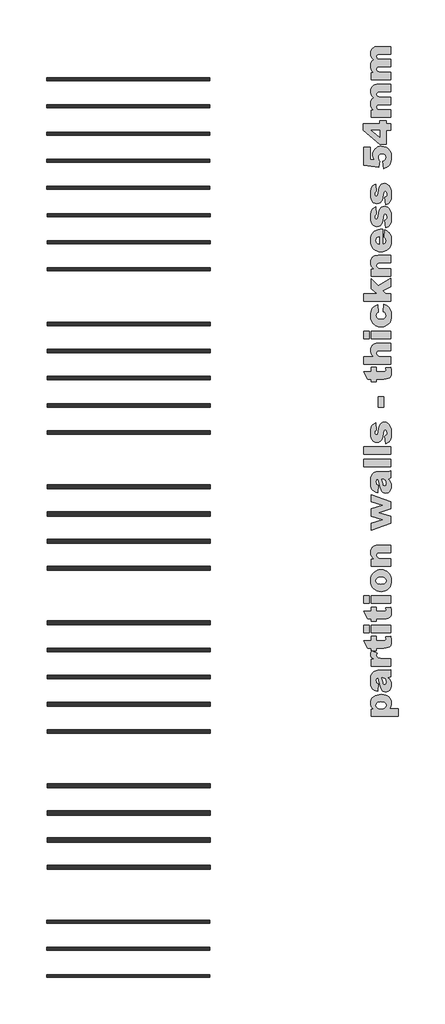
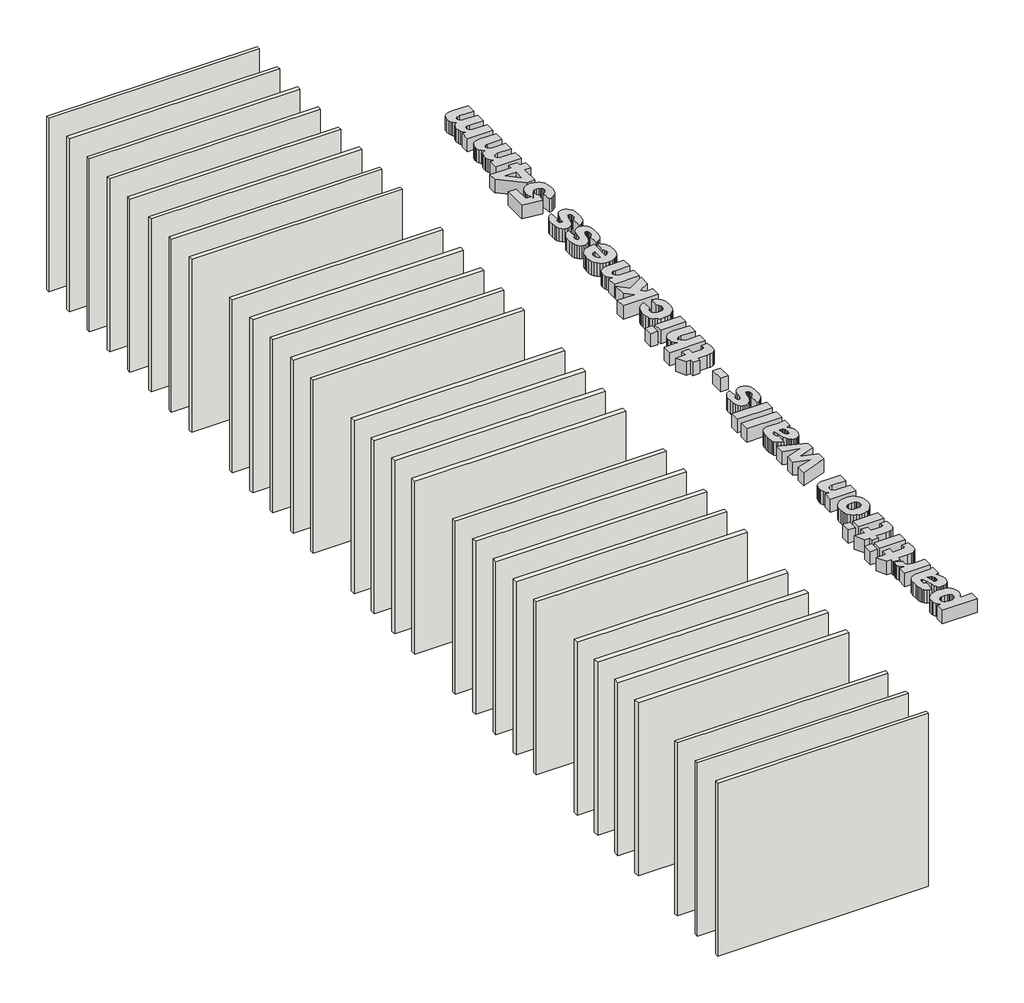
# One storey: 29 walls, 1 proxy.
"""IFC4 building model written with IfcOpenShell, lengths in millimetres."""

from ifc_helpers import new_model, si_unit, origin, origin_with_axes, place, context, project, spatial, polyline, outline, extrude, element, save

model = new_model("IFC4")

# Units and contexts
model_context = context("Model", 3, world=origin())
ifc_project = project(units=[si_unit("LENGTHUNIT", "METRE", prefix="MILLI")], contexts=[model_context])

# Site, building, storey
site = spatial("IfcSite", under=ifc_project)
building = spatial("IfcBuilding", under=site)
storey = spatial("IfcBuildingStorey", under=building, Name="faay_bottom_view_color", Elevation=0.0)

# Proxy
placement = place(None, origin())
element("IfcBuildingElementProxy", 1, Name="500 Arial Black", ObjectType="500 Arial Black", at=placement, inside=storey, context=model_context, shape_type="SweptSolid", body=[
    extrude(outline(polyline([(-5696.4567239, 6971.8538122), (-6196.4567239, 6971.8538122), (-6196.4567239, 7099.1516063), (-6146.0584396, 7099.1516063), (-6173.6702655, 7125.5762386), (-6190.6356454, 7149.7030769), (-6202.3543954, 7182.3317533), (-6206.2606454, 7218.3305279), (-6202.7517223, 7253.3718882), (-6192.224953, 7284.2006259), (-6174.6803375, 7310.8167411), (-6150.1178758, 7333.2202337), (-6120.3853774, 7350.9802674), (-6087.3306516, 7363.6660058), (-6050.9536984, 7371.2774488), (-6011.254518, 7373.8145965), (-5968.3097033, 7371.0428823), (-5930.774279, 7362.7277399), (-5898.648245, 7348.8691691), (-5871.9316013, 7329.46717), (-5850.9211464, 7305.8334001), (-5835.9136785, 7279.2795168), (-5826.9091978, 7249.8055202), (-5823.9077043, 7217.4114102), (-5826.4927226, 7185.9507791), (-5834.2477778, 7157.4389837), (-5847.05798, 7131.8377276), (-5864.8084396, 7109.1087141), (-5696.4567239, 7109.1087141), (-5696.4567239, 6971.8538122)]), holes=[polyline([(-6013.0927533, 7108.0364102), (-5972.7856148, 7112.8426296), (-5957.0983829, 7118.8504038), (-5944.3887092, 7127.2612877), (-5927.5573673, 7149.0328869), (-5921.9469199, 7175.8979298), (-5927.3275878, 7199.5652092), (-5943.4695915, 7219.0964592), (-5956.093098, 7226.7366247), (-5972.4409457, 7232.1938857), (-6016.309665, 7236.5596945), (-6057.4784763, 7232.0215511), (-6073.3236816, 7226.3488719), (-6086.0094199, 7218.407121), (-6102.6684273, 7198.2439776), (-6108.2214298, 7174.0596945), (-6102.6109824, 7148.094621), (-6085.7796405, 7126.878322), (-6072.8210391, 7118.6349856), (-6056.3870241, 7112.7468882), (-6013.0927533, 7108.0364102)])]), origin_with_axes(), (0.0, 0.0, 1.0), 200.0),
    extrude(outline(polyline([(-6069.0057435, 7569.8930279), (-6078.809665, 7432.6381259), (-6114.368029, 7441.6378195), (-6141.3862582, 7453.9310181), (-6162.6600021, 7470.9346945), (-6180.9849101, 7494.065822), (-6191.6122079, 7516.2969801), (-6199.5970425, 7545.6130033), (-6204.5947447, 7579.8309874), (-6206.2606454, 7616.7680279), (-6204.4990033, 7672.1448661), (-6199.2140768, 7715.4199886), (-6188.3761479, 7749.5422313), (-6169.9554984, 7777.4604298), (-6151.2667729, 7793.0662815), (-6126.1442239, 7804.9573661), (-6098.4558048, 7812.4826418), (-6072.069469, 7814.9910671), (-5911.2238807, 7814.9910671), (-5870.9358905, 7818.2079788), (-5833.7116258, 7832.4543024), (-5833.7116258, 7700.8672926), (-5861.0553758, 7690.527219), (-5890.5437337, 7685.7018514), (-5862.01279, 7659.4304053), (-5842.9028023, 7633.3121455), (-5828.6564788, 7594.7475009), (-5823.9077043, 7550.438371), (-5825.7459396, 7520.9978839), (-5831.2606454, 7495.3296087), (-5840.4518219, 7473.4335456), (-5853.319469, 7455.3096945), (-5868.8870241, 7441.1016676), (-5886.1779249, 7430.9530769), (-5905.1921712, 7424.8639225), (-5925.9297631, 7422.8342043), (-5945.250382, 7424.2990481), (-5962.7710621, 7428.6935793), (-5978.4918035, 7436.0177981), (-5992.4126062, 7446.2717043), (-6004.6004892, 7460.393564), (-6015.1224714, 7479.4748293), (-6031.1687337, 7532.5155769), (-6052.8445915, 7630.3250132), (-6069.0057435, 7677.7361651), (-6087.5029861, 7675.3617779), (-6099.4898121, 7668.2386161), (-6106.0385253, 7655.1794862), (-6108.2214298, 7634.9971945), (-6105.7321528, 7608.2278931), (-6098.2643219, 7589.1944984), (-6087.0434273, 7578.3948661), (-6069.0057435, 7569.8930279)]), holes=[polyline([(-6000.3782925, 7677.7361651), (-5986.5915278, 7621.5168024), (-5978.0896896, 7588.964719), (-5969.7410376, 7570.9653318), (-5960.5881577, 7562.8081627), (-5950.2863807, 7560.0891063), (-5938.8931516, 7562.7890144), (-5929.8360131, 7570.8887386), (-5923.9191932, 7584.1967962), (-5921.9469199, 7602.5217043), (-5924.0915278, 7623.6422619), (-5930.5253513, 7643.1926602), (-5940.0420486, 7659.2389225), (-5951.4352778, 7669.847072), (-5965.6241565, 7675.7638918), (-5983.5278023, 7677.7361651), (-6000.3782925, 7677.7361651)])]), origin_with_axes(), (0.0, 0.0, 1.0), 200.0),
    extrude(outline(polyline([(-6196.4567239, 7893.4224396), (-6196.4567239, 8021.3329788), (-6138.0927533, 8021.3329788), (-6170.9320609, 8040.5004114), (-6191.6313562, 8060.3188857), (-6202.6033231, 8082.8181198), (-6206.2606454, 8110.0278318), (-6201.1289052, 8142.4267288), (-6185.7336847, 8177.7361651), (-6088.1540278, 8134.3844494), (-6095.8516381, 8112.1724396), (-6098.4175082, 8095.1687632), (-6092.749616, 8070.6972558), (-6075.7459396, 8052.4297926), (-6056.2625603, 8042.9130953), (-6029.8283538, 8036.1154543), (-5996.4433201, 8032.0368698), (-5956.1074592, 8030.6773416), (-5833.7116258, 8030.6773416), (-5833.7116258, 7893.4224396), (-6196.4567239, 7893.4224396)])), origin_with_axes(), (0.0, 0.0, 1.0), 200.0),
    extrude(outline(polyline([(-6333.7116258, 8364.0106749), (-6196.4567239, 8364.0106749), (-6196.4567239, 8442.4420475), (-6098.4175082, 8442.4420475), (-6098.4175082, 8364.0106749), (-5965.6050082, 8364.0106749), (-5945.7290891, 8365.0829788), (-5933.8954494, 8368.2998906), (-5924.9340523, 8377.3378808), (-5921.9469199, 8391.2778318), (-5924.2447141, 8408.9708465), (-5931.1380964, 8432.6381259), (-5835.0903023, 8442.4420475), (-5826.7033538, 8393.7288122), (-5823.9077043, 8348.3856749), (-5827.2969506, 8304.4595107), (-5837.4646896, 8273.7839592), (-5854.5449592, 8252.8740328), (-5878.6717974, 8238.2447435), (-5914.9194996, 8229.6280156), (-5968.3623611, 8226.755773), (-6098.4175082, 8226.755773), (-6098.4175082, 8177.7361651), (-6196.4567239, 8177.7361651), (-6196.4567239, 8226.755773), (-6262.6331945, 8226.755773), (-6333.7116258, 8364.0106749)])), origin_with_axes(), (0.0, 0.0, 1.0), 200.0),
    extrude(outline(polyline([(-6333.7116258, 8511.0694984), (-6333.7116258, 8648.3244004), (-6235.6724101, 8648.3244004), (-6235.6724101, 8511.0694984), (-6333.7116258, 8511.0694984)])), origin_with_axes(), (0.0, 0.0, 1.0), 200.0),
    extrude(outline(polyline([(-6196.4567239, 8511.0694984), (-6196.4567239, 8648.3244004), (-5833.7116258, 8648.3244004), (-5833.7116258, 8511.0694984), (-6196.4567239, 8511.0694984)])), origin_with_axes(), (0.0, 0.0, 1.0), 200.0),
    extrude(outline(polyline([(-6333.7116258, 8903.2263612), (-6196.4567239, 8903.2263612), (-6196.4567239, 8981.6577337), (-6098.4175082, 8981.6577337), (-6098.4175082, 8903.2263612), (-5965.6050082, 8903.2263612), (-5945.7290891, 8904.2986651), (-5933.8954494, 8907.5155769), (-5924.9340523, 8916.5535671), (-5921.9469199, 8930.4935181), (-5924.2447141, 8948.1865328), (-5931.1380964, 8971.8538122), (-5835.0903023, 8981.6577337), (-5826.7033538, 8932.9444984), (-5823.9077043, 8887.6013612), (-5827.2969506, 8843.675197), (-5837.4646896, 8812.9996455), (-5854.5449592, 8792.089719), (-5878.6717974, 8777.4604298), (-5914.9194996, 8768.8437019), (-5968.3623611, 8765.9714592), (-6098.4175082, 8765.9714592), (-6098.4175082, 8716.9518514), (-6196.4567239, 8716.9518514), (-6196.4567239, 8765.9714592), (-6262.6331945, 8765.9714592), (-6333.7116258, 8903.2263612)])), origin_with_axes(), (0.0, 0.0, 1.0), 200.0),
    extrude(outline(polyline([(-6196.4567239, 9050.2851847), (-6196.4567239, 9187.5400867), (-5833.7116258, 9187.5400867), (-5833.7116258, 9050.2851847), (-6196.4567239, 9050.2851847)])), origin_with_axes(), (0.0, 0.0, 1.0), 200.0),
    extrude(outline(polyline([(-6333.7116258, 9050.2851847), (-6333.7116258, 9187.5400867), (-6235.6724101, 9187.5400867), (-6235.6724101, 9050.2851847), (-6333.7116258, 9050.2851847)])), origin_with_axes(), (0.0, 0.0, 1.0), 200.0),
    extrude(outline(polyline([(-6014.0118709, 9265.9714592), (-6054.0605076, 9269.3463443), (-6090.4135253, 9279.4709997), (-6123.0709242, 9296.3454252), (-6152.0327043, 9319.969621), (-6175.7574285, 9349.3478762), (-6192.7036601, 9383.4844801), (-6202.8713991, 9422.3794326), (-6206.2606454, 9466.0327337), (-6202.2778023, 9515.3587141), (-6190.3292729, 9558.250871), (-6170.4150572, 9594.7092043), (-6142.5351552, 9624.7337141), (-6115.3924622, 9643.6330708), (-6085.2817851, 9657.1326112), (-6052.203124, 9665.2323355), (-6016.1564788, 9667.9322435), (-5975.8589144, 9664.5860809), (-5939.3718587, 9654.5475928), (-5906.6953115, 9637.8167794), (-5877.8292729, 9614.3936406), (-5854.2385866, 9585.0632561), (-5837.3880964, 9550.6107056), (-5827.2778023, 9511.035989), (-5823.9077043, 9466.3391063), (-5826.7033538, 9426.1564317), (-5835.0903023, 9390.014045), (-5849.0685499, 9357.9119464), (-5868.6380964, 9329.8501357), (-5898.5189941, 9301.9032147), (-5932.7082557, 9281.9411283), (-5971.2058813, 9269.9638765), (-6014.0118709, 9265.9714592)]), holes=[polyline([(-6015.2373611, 9403.2263612), (-5973.8004739, 9407.7645046), (-5957.7350633, 9413.4371838), (-5944.7716749, 9421.3789347), (-5927.6531087, 9441.8867472), (-5921.9469199, 9467.1050377), (-5927.5765155, 9492.4765144), (-5944.4653023, 9512.8311406), (-5957.4191166, 9520.6388535), (-5973.7621773, 9526.2157913), (-6016.6160376, 9530.6773416), (-6056.9806209, 9526.1774948), (-6072.7396589, 9520.5526863), (-6085.5498611, 9512.6779543), (-6102.5535376, 9492.5148109), (-6108.2214298, 9468.0241553), (-6102.4769445, 9442.3080095), (-6085.2434886, 9421.532121), (-6072.2513777, 9413.5233511), (-6056.2529861, 9407.8028011), (-6015.2373611, 9403.2263612)])]), origin_with_axes(), (0.0, 0.0, 1.0), 200.0),
    extrude(outline(polyline([(-6196.4567239, 9736.5596945), (-6196.4567239, 9864.3170475), (-6139.0118709, 9864.3170475), (-6170.0129432, 9893.5947742), (-6190.7122386, 9923.21717), (-6202.3735437, 9956.2479605), (-6206.2606454, 9995.750871), (-6204.1064635, 10023.0611115), (-6197.6439175, 10047.2406075), (-6186.8730076, 10068.289359), (-6171.7937337, 10086.2073661), (-6152.214613, 10100.5159215), (-6127.9441626, 10110.7363183), (-6098.9823826, 10116.8685564), (-6065.3292729, 10118.9126357), (-5833.7116258, 10118.9126357), (-5833.7116258, 9981.6577337), (-6035.3047631, 9981.6577337), (-6064.7356761, 9978.4025254), (-6084.0945915, 9968.6369004), (-6094.836779, 9953.0119004), (-6098.4175082, 9932.1785671), (-6093.5921405, 9908.6070291), (-6079.1160376, 9889.9757484), (-6067.5408997, 9882.9052445), (-6052.1169567, 9877.8548845), (-6009.7226552, 9873.8145965), (-5833.7116258, 9873.8145965), (-5833.7116258, 9736.5596945), (-6196.4567239, 9736.5596945)])), origin_with_axes(), (0.0, 0.0, 1.0), 200.0),
    extrude(outline(polyline([(-6196.4567239, 10393.4224396), (-6196.4567239, 10528.68592), (-5983.5278023, 10586.8967043), (-6196.4567239, 10655.9837141), (-6196.4567239, 10786.6516063), (-5982.7618709, 10858.0364102), (-6196.4567239, 10915.1748906), (-6196.4567239, 11050.2851847), (-5833.7116258, 10917.625871), (-5833.7116258, 10794.7704788), (-6052.002067, 10721.8538122), (-5833.7116258, 10651.0817533), (-5833.7116258, 10527.3072435), (-6196.4567239, 10393.4224396)])), origin_with_axes(), (0.0, 0.0, 1.0), 200.0),
    extrude(outline(polyline([(-6069.0057435, 11226.755773), (-6078.809665, 11089.500871), (-6114.368029, 11098.5005646), (-6141.3862582, 11110.7937632), (-6162.6600021, 11127.7974396), (-6180.9849101, 11150.9285671), (-6191.6122079, 11173.1597252), (-6199.5970425, 11202.4757484), (-6204.5947447, 11236.6937325), (-6206.2606454, 11273.630773), (-6204.4990033, 11329.0076112), (-6199.2140768, 11372.2827337), (-6188.3761479, 11406.4049764), (-6169.9554984, 11434.3231749), (-6151.2667729, 11449.9290266), (-6126.1442239, 11461.8201112), (-6098.4558048, 11469.3453869), (-6072.069469, 11471.8538122), (-5911.2238807, 11471.8538122), (-5870.9358905, 11475.0707239), (-5833.7116258, 11489.3170475), (-5833.7116258, 11357.7300377), (-5861.0553758, 11347.3899641), (-5890.5437337, 11342.5645965), (-5862.01279, 11316.2931504), (-5842.9028023, 11290.1748906), (-5828.6564788, 11251.610246), (-5823.9077043, 11207.3011161), (-5825.7459396, 11177.860629), (-5831.2606454, 11152.1923538), (-5840.4518219, 11130.2962907), (-5853.319469, 11112.1724396), (-5868.8870241, 11097.9644127), (-5886.1779249, 11087.815822), (-5905.1921712, 11081.7266676), (-5925.9297631, 11079.6969494), (-5945.250382, 11081.1617932), (-5962.7710621, 11085.5563244), (-5978.4918035, 11092.8805432), (-5992.4126062, 11103.1344494), (-6004.6004892, 11117.2563091), (-6015.1224714, 11136.3375744), (-6031.1687337, 11189.378322), (-6052.8445915, 11287.1877583), (-6069.0057435, 11334.5989102), (-6087.5029861, 11332.224523), (-6099.4898121, 11325.1013612), (-6106.0385253, 11312.0422313), (-6108.2214298, 11291.8599396), (-6105.7321528, 11265.0906382), (-6098.2643219, 11246.0572435), (-6087.0434273, 11235.2576112), (-6069.0057435, 11226.755773)]), holes=[polyline([(-6000.3782925, 11334.5989102), (-5986.5915278, 11278.3795475), (-5978.0896896, 11245.8274641), (-5969.7410376, 11227.8280769), (-5960.5881577, 11219.6709078), (-5950.2863807, 11216.9518514), (-5938.8931516, 11219.6517595), (-5929.8360131, 11227.7514837), (-5923.9191932, 11241.0595413), (-5921.9469199, 11259.3844494), (-5924.0915278, 11280.505007), (-5930.5253513, 11300.0554053), (-5940.0420486, 11316.1016676), (-5951.4352778, 11326.7098171), (-5965.6241565, 11332.6266369), (-5983.5278023, 11334.5989102), (-6000.3782925, 11334.5989102)])]), origin_with_axes(), (0.0, 0.0, 1.0), 200.0),
    extrude(outline(polyline([(-6333.7116258, 11560.0891063), (-6333.7116258, 11697.3440083), (-5833.7116258, 11697.3440083), (-5833.7116258, 11560.0891063), (-6333.7116258, 11560.0891063)])), origin_with_axes(), (0.0, 0.0, 1.0), 200.0),
    extrude(outline(polyline([(-6333.7116258, 11795.3832239), (-6333.7116258, 11932.6381259), (-5833.7116258, 11932.6381259), (-5833.7116258, 11795.3832239), (-6333.7116258, 11795.3832239)])), origin_with_axes(), (0.0, 0.0, 1.0), 200.0),
    extrude(outline(polyline([(-5931.7508415, 11991.4616553), (-5941.5547631, 12128.7165573), (-5923.4404861, 12138.7885548), (-5911.377067, 12152.1540573), (-5904.5985744, 12169.6938857), (-5902.3390768, 12192.2888612), (-5905.2879126, 12216.5305891), (-5914.1344199, 12234.7214592), (-5923.9383415, 12243.4530769), (-5935.8868709, 12246.3636161), (-5948.9460008, 12243.7211529), (-5958.7116258, 12235.7937632), (-5965.0305597, 12217.9858587), (-5972.6515768, 12179.5744004), (-5984.6766994, 12117.8020352), (-5995.9358905, 12078.318273), (-6010.5651798, 12052.2000132), (-6032.7005964, 12030.5241553), (-6060.3890155, 12015.9331627), (-6091.6773121, 12011.0694984), (-6125.4548856, 12016.3544249), (-6154.1773121, 12032.2092043), (-6177.0595119, 12057.3126051), (-6193.3164052, 12090.3433955), (-6203.0245854, 12133.6759629), (-6206.2606454, 12189.6846945), (-6203.7522202, 12246.8040266), (-6196.2269445, 12286.7281994), (-6183.4358905, 12315.4697742), (-6165.1301307, 12339.0413122), (-6140.3713991, 12358.2278931), (-6108.2214298, 12373.8145965), (-6098.4175082, 12236.5596945), (-6110.6341136, 12230.6237264), (-6119.0976552, 12221.7006259), (-6125.6463685, 12206.0756259), (-6127.8292729, 12187.3869004), (-6125.7804065, 12169.7704788), (-6119.6338072, 12157.6687632), (-6110.5383722, 12150.6604911), (-6099.6429984, 12148.3244004), (-6088.1923244, 12150.2392288), (-6079.881969, 12155.9837141), (-6073.486442, 12173.2554666), (-6067.7802533, 12209.7520965), (-6058.5507802, 12270.5287509), (-6046.1809886, 12313.4592043), (-6029.2539052, 12343.4837141), (-6006.3525572, 12365.5425377), (-5979.20029, 12379.099523), (-5949.5204494, 12383.6185181), (-5918.5768219, 12378.7931504), (-5888.5523121, 12364.3170475), (-5861.9936418, 12339.4625744), (-5841.4475327, 12303.5020965), (-5828.2926614, 12254.4824886), (-5823.9077043, 12190.4506259), (-5825.6597723, 12143.5373293), (-5830.9159763, 12103.9003808), (-5839.6763164, 12071.5397803), (-5851.9407925, 12046.4555279), (-5867.4413286, 12026.933852), (-5885.9098489, 12011.2609813), (-5907.3463532, 11999.4369157), (-5931.7508415, 11991.4616553)])), origin_with_axes(), (0.0, 0.0, 1.0), 200.0),
    extrude(outline(polyline([(-6069.0057435, 12658.128322), (-6069.0057435, 12854.2067533), (-5961.1626062, 12854.2067533), (-5961.1626062, 12658.128322), (-6069.0057435, 12658.128322)])), origin_with_axes(), (0.0, 0.0, 1.0), 200.0),
    extrude(outline(polyline([(-6333.7116258, 13314.9910671), (-6196.4567239, 13314.9910671), (-6196.4567239, 13393.4224396), (-6098.4175082, 13393.4224396), (-6098.4175082, 13314.9910671), (-5965.6050082, 13314.9910671), (-5945.7290891, 13316.063371), (-5933.8954494, 13319.2802828), (-5924.9340523, 13328.318273), (-5921.9469199, 13342.2582239), (-5924.2447141, 13359.9512386), (-5931.1380964, 13383.6185181), (-5835.0903023, 13393.4224396), (-5826.7033538, 13344.7092043), (-5823.9077043, 13299.3660671), (-5827.2969506, 13255.4399029), (-5837.4646896, 13224.7643514), (-5854.5449592, 13203.8544249), (-5878.6717974, 13189.2251357), (-5914.9194996, 13180.6084078), (-5968.3623611, 13177.7361651), (-6098.4175082, 13177.7361651), (-6098.4175082, 13128.7165573), (-6196.4567239, 13128.7165573), (-6196.4567239, 13177.7361651), (-6262.6331945, 13177.7361651), (-6333.7116258, 13314.9910671)])), origin_with_axes(), (0.0, 0.0, 1.0), 200.0),
    extrude(outline(polyline([(-6333.7116258, 13452.245969), (-6333.7116258, 13589.500871), (-6151.879518, 13589.500871), (-6176.9637704, 13617.7828869), (-6193.6993709, 13645.9500132), (-6203.1203268, 13676.6064163), (-6206.2606454, 13712.3562632), (-6204.0968893, 13739.2643897), (-6197.6056209, 13763.1566614), (-6186.7868403, 13784.0330784), (-6171.6405474, 13801.8936406), (-6152.013556, 13816.2021961), (-6127.7526798, 13826.4225928), (-6098.8579187, 13832.5548309), (-6065.3292729, 13834.5989102), (-5833.7116258, 13834.5989102), (-5833.7116258, 13697.3440083), (-6035.3047631, 13697.3440083), (-6064.7356761, 13694.0887999), (-6084.0945915, 13684.3231749), (-6094.836779, 13668.6981749), (-6098.4175082, 13647.8648416), (-6093.5921405, 13624.2933036), (-6079.1160376, 13605.662023), (-6067.5408997, 13598.591519), (-6052.1169567, 13593.541159), (-6009.7226552, 13589.500871), (-5833.7116258, 13589.500871), (-5833.7116258, 13452.245969), (-6333.7116258, 13452.245969)])), origin_with_axes(), (0.0, 0.0, 1.0), 200.0),
    extrude(outline(polyline([(-6196.4567239, 13922.8342043), (-6196.4567239, 14060.0891063), (-5833.7116258, 14060.0891063), (-5833.7116258, 13922.8342043), (-6196.4567239, 13922.8342043)])), origin_with_axes(), (0.0, 0.0, 1.0), 200.0),
    extrude(outline(polyline([(-6333.7116258, 13922.8342043), (-6333.7116258, 14060.0891063), (-6235.6724101, 14060.0891063), (-6235.6724101, 13922.8342043), (-6333.7116258, 13922.8342043)])), origin_with_axes(), (0.0, 0.0, 1.0), 200.0),
    extrude(outline(polyline([(-5970.9665278, 14413.0302828), (-5961.1626062, 14550.2851847), (-5922.0235131, 14536.1154543), (-5888.5523121, 14515.0523416), (-5861.3234518, 14487.1532913), (-5840.9113807, 14452.4757484), (-5828.1586234, 14409.2580708), (-5823.9077043, 14355.7386161), (-5826.6267606, 14303.808469), (-5834.7839298, 14261.375871), (-5848.9919567, 14226.3153624), (-5869.8635866, 14196.5014837), (-5896.1924775, 14172.2597558), (-5926.7722876, 14153.9156994), (-5964.8199285, 14142.369284), (-6013.5523121, 14138.5204788), (-6065.2143832, 14143.1926602), (-6107.4554984, 14157.2092043), (-6133.5929065, 14173.351208), (-6156.8580719, 14194.5100622), (-6175.9106148, 14218.5028624), (-6189.4101552, 14243.1467043), (-6202.0480229, 14288.2983587), (-6206.2606454, 14344.7092043), (-6204.2309273, 14385.4136697), (-6198.1417729, 14420.9768208), (-6187.9931822, 14451.3986575), (-6173.7851552, 14476.6791798), (-6155.6708783, 14497.6992089), (-6133.8035376, 14515.3395658), (-6108.1831332, 14529.6002506), (-6078.809665, 14540.4812632), (-6069.0057435, 14403.2263612), (-6086.0668648, 14395.4904543), (-6098.340915, 14383.3121455), (-6105.7513011, 14366.4233587), (-6108.2214298, 14344.5560181), (-6106.7135024, 14329.8980064), (-6102.1897202, 14316.7144127), (-6094.6500832, 14305.0052368), (-6084.0945915, 14294.7704788), (-6070.4753743, 14286.4601234), (-6053.7445609, 14280.5241553), (-6010.9481454, 14275.7753808), (-5972.5366871, 14280.6581933), (-5957.2659304, 14286.7617089), (-5944.6184886, 14295.3066308), (-5927.6148121, 14317.4994923), (-5921.9469199, 14345.0155769), (-5924.9532006, 14368.261594), (-5933.9720425, 14387.4481749), (-5949.2332251, 14402.4221333), (-5970.9665278, 14413.0302828)])), origin_with_axes(), (0.0, 0.0, 1.0), 200.0),
    extrude(outline(polyline([(-6333.7116258, 14609.1087141), (-6333.7116258, 14746.3636161), (-6088.1540278, 14746.3636161), (-6196.4567239, 14842.870969), (-6196.4567239, 15020.87342), (-6070.0780474, 14891.7373906), (-5833.7116258, 15030.6773416), (-5833.7116258, 14873.0486651), (-5979.3917729, 14798.9065083), (-5927.9211847, 14746.3636161), (-5833.7116258, 14746.3636161), (-5833.7116258, 14609.1087141), (-6333.7116258, 14609.1087141)])), origin_with_axes(), (0.0, 0.0, 1.0), 200.0),
    extrude(outline(polyline([(-6196.4567239, 15069.8930279), (-6196.4567239, 15197.6503808), (-6139.0118709, 15197.6503808), (-6170.0129432, 15226.9281075), (-6190.7122386, 15256.5505033), (-6202.3735437, 15289.5812938), (-6206.2606454, 15329.0842043), (-6204.1064635, 15356.3944448), (-6197.6439175, 15380.5739408), (-6186.8730076, 15401.6226924), (-6171.7937337, 15419.5406994), (-6152.214613, 15433.8492549), (-6127.9441626, 15444.0696516), (-6098.9823826, 15450.2018897), (-6065.3292729, 15452.245969), (-5833.7116258, 15452.245969), (-5833.7116258, 15314.9910671), (-6035.3047631, 15314.9910671), (-6064.7356761, 15311.7358587), (-6084.0945915, 15301.9702337), (-6094.836779, 15286.3452337), (-6098.4175082, 15265.5119004), (-6093.5921405, 15241.9403624), (-6079.1160376, 15223.3090818), (-6067.5408997, 15216.2385778), (-6052.1169567, 15211.1882178), (-6009.7226552, 15207.1479298), (-5833.7116258, 15207.1479298), (-5833.7116258, 15069.8930279), (-6196.4567239, 15069.8930279)])), origin_with_axes(), (0.0, 0.0, 1.0), 200.0),
    extrude(outline(polyline([(-5980.7704494, 15932.6381259), (-5980.7704494, 15658.128322), (-5957.3712459, 15664.1791798), (-5940.7888317, 15675.2851847), (-5926.6573979, 15697.458898), (-5921.9469199, 15725.3770965), (-5924.2064175, 15744.4487877), (-5930.9849101, 15762.4481749), (-5951.3586847, 15785.5793024), (-5941.5547631, 15922.8342043), (-5912.3009717, 15906.7257102), (-5887.4991565, 15889.0374825), (-5867.1493173, 15869.7695214), (-5851.2514543, 15848.9218269), (-5839.2885636, 15824.9242396), (-5830.7436418, 15796.2066002), (-5825.6166886, 15762.7689087), (-5823.9077043, 15724.6111651), (-5829.0394445, 15661.9196823), (-5835.4541197, 15636.174814), (-5844.434665, 15614.1638612), (-5856.2012858, 15594.8815389), (-5870.9741871, 15577.3225622), (-5888.7533691, 15561.486931), (-5909.5388317, 15547.3746455), (-5932.8135713, 15535.7803594), (-5958.0605842, 15527.4987264), (-5985.2798703, 15522.5297466), (-6014.4714298, 15520.87342), (-6055.2524883, 15524.2100086), (-6091.9645364, 15534.2197742), (-6124.6075741, 15550.9027169), (-6153.1816013, 15574.2588367), (-6176.4036831, 15603.4934798), (-6192.9908844, 15637.8119923), (-6202.9432052, 15677.2143744), (-6206.2606454, 15721.7006259), (-6204.7766534, 15757.8382255), (-6200.3246773, 15789.9642595), (-6192.9047171, 15818.0787279), (-6182.5167729, 15842.1816308), (-6169.3140309, 15862.9623064), (-6153.4496773, 15881.1100928), (-6134.9237122, 15896.6249902), (-6113.7361356, 15909.5069984), (-6089.5231301, 15919.6268667), (-6061.9208783, 15926.855344), (-6030.9293801, 15931.1924304), (-5996.5486356, 15932.6381259), (-5980.7704494, 15932.6381259)]), holes=[polyline([(-6049.3979003, 15795.3832239), (-6076.4735744, 15787.8962448), (-6094.5878513, 15773.7073661), (-6104.8130351, 15753.3527399), (-6108.2214298, 15727.3685181), (-6103.0896896, 15697.6120842), (-6087.694469, 15674.5192533), (-6071.6865033, 15664.1408833), (-6049.3979003, 15658.4346945), (-6049.3979003, 15795.3832239)])]), origin_with_axes(), (0.0, 0.0, 1.0), 200.0),
    extrude(outline(polyline([(-5931.7508415, 15962.0498906), (-5941.5547631, 16099.3047926), (-5923.4404861, 16109.3767901), (-5911.377067, 16122.7422926), (-5904.5985744, 16140.282121), (-5902.3390768, 16162.8770965), (-5905.2879126, 16187.1188244), (-5914.1344199, 16205.3096945), (-5923.9383415, 16214.0413122), (-5935.8868709, 16216.9518514), (-5948.9460008, 16214.3093882), (-5958.7116258, 16206.3819984), (-5965.0305597, 16188.574094), (-5972.6515768, 16150.1626357), (-5984.6766994, 16088.3902705), (-5995.9358905, 16048.9065083), (-6010.5651798, 16022.7882484), (-6032.7005964, 16001.1123906), (-6060.3890155, 15986.521398), (-6091.6773121, 15981.6577337), (-6125.4548856, 15986.9426602), (-6154.1773121, 16002.7974396), (-6177.0595119, 16027.9008404), (-6193.3164052, 16060.9316308), (-6203.0245854, 16104.2641982), (-6206.2606454, 16160.2729298), (-6203.7522202, 16217.3922619), (-6196.2269445, 16257.3164347), (-6183.4358905, 16286.0580095), (-6165.1301307, 16309.6295475), (-6140.3713991, 16328.8161283), (-6108.2214298, 16344.4028318), (-6098.4175082, 16207.1479298), (-6110.6341136, 16201.2119617), (-6119.0976552, 16192.2888612), (-6125.6463685, 16176.6638612), (-6127.8292729, 16157.9751357), (-6125.7804065, 16140.3587141), (-6119.6338072, 16128.2569984), (-6110.5383722, 16121.2487264), (-6099.6429984, 16118.9126357), (-6088.1923244, 16120.8274641), (-6079.881969, 16126.5719494), (-6073.486442, 16143.8437019), (-6067.7802533, 16180.3403318), (-6058.5507802, 16241.1169862), (-6046.1809886, 16284.0474396), (-6029.2539052, 16314.0719494), (-6006.3525572, 16336.130773), (-5979.20029, 16349.6877583), (-5949.5204494, 16354.2067533), (-5918.5768219, 16349.3813857), (-5888.5523121, 16334.9052828), (-5861.9936418, 16310.0508097), (-5841.4475327, 16274.0903318), (-5828.2926614, 16225.0707239), (-5823.9077043, 16161.0388612), (-5825.6597723, 16114.1255646), (-5830.9159763, 16074.4886161), (-5839.6763164, 16042.1280156), (-5851.9407925, 16017.0437632), (-5867.4413286, 15997.5220873), (-5885.9098489, 15981.8492166), (-5907.3463532, 15970.025151), (-5931.7508415, 15962.0498906)])), origin_with_axes(), (0.0, 0.0, 1.0), 200.0),
    extrude(outline(polyline([(-5931.7508415, 16383.6185181), (-5941.5547631, 16520.87342), (-5923.4404861, 16530.9454176), (-5911.377067, 16544.31092), (-5904.5985744, 16561.8507484), (-5902.3390768, 16584.4457239), (-5905.2879126, 16608.6874519), (-5914.1344199, 16626.878322), (-5923.9383415, 16635.6099396), (-5935.8868709, 16638.5204788), (-5948.9460008, 16635.8780156), (-5958.7116258, 16627.9506259), (-5965.0305597, 16610.1427215), (-5972.6515768, 16571.7312632), (-5984.6766994, 16509.958898), (-5995.9358905, 16470.4751357), (-6010.5651798, 16444.3568759), (-6032.7005964, 16422.6810181), (-6060.3890155, 16408.0900254), (-6091.6773121, 16403.2263612), (-6125.4548856, 16408.5112877), (-6154.1773121, 16424.3660671), (-6177.0595119, 16449.4694678), (-6193.3164052, 16482.5002583), (-6203.0245854, 16525.8328257), (-6206.2606454, 16581.8415573), (-6203.7522202, 16638.9608894), (-6196.2269445, 16678.8850622), (-6183.4358905, 16707.6266369), (-6165.1301307, 16731.1981749), (-6140.3713991, 16750.3847558), (-6108.2214298, 16765.9714592), (-6098.4175082, 16628.7165573), (-6110.6341136, 16622.7805891), (-6119.0976552, 16613.8574886), (-6125.6463685, 16598.2324886), (-6127.8292729, 16579.5437632), (-6125.7804065, 16561.9273416), (-6119.6338072, 16549.8256259), (-6110.5383722, 16542.8173538), (-6099.6429984, 16540.4812632), (-6088.1923244, 16542.3960916), (-6079.881969, 16548.1405769), (-6073.486442, 16565.4123293), (-6067.7802533, 16601.9089592), (-6058.5507802, 16662.6856136), (-6046.1809886, 16705.6160671), (-6029.2539052, 16735.6405769), (-6006.3525572, 16757.6994004), (-5979.20029, 16771.2563857), (-5949.5204494, 16775.7753808), (-5918.5768219, 16770.9500132), (-5888.5523121, 16756.4739102), (-5861.9936418, 16731.6194372), (-5841.4475327, 16695.6589592), (-5828.2926614, 16646.6393514), (-5823.9077043, 16582.6074886), (-5825.6597723, 16535.6941921), (-5830.9159763, 16496.0572435), (-5839.6763164, 16463.6966431), (-5851.9407925, 16438.6123906), (-5867.4413286, 16419.0907147), (-5885.9098489, 16403.417844), (-5907.3463532, 16391.5937785), (-5931.7508415, 16383.6185181)])), origin_with_axes(), (0.0, 0.0, 1.0), 200.0),
    extrude(outline(polyline([(-6333.7116258, 17109.1087141), (-6333.7116258, 17442.4420475), (-6216.064567, 17442.4420475), (-6216.064567, 17215.2668024), (-6142.0755964, 17207.9138612), (-6160.840915, 17252.8740328), (-6167.0449592, 17296.9150867), (-6164.2205872, 17331.9468728), (-6155.7474714, 17363.5128195), (-6141.6256117, 17391.6129268), (-6121.8550082, 17416.2471945), (-6097.7951889, 17436.2858741), (-6070.8056822, 17450.5992166), (-6040.886488, 17459.1872221), (-6008.0376062, 17462.0498906), (-5960.7221957, 17456.0947742), (-5915.283317, 17438.2294249), (-5894.3494552, 17425.0745536), (-5876.0484824, 17409.4304053), (-5860.3803988, 17391.2969801), (-5847.3452043, 17370.6742779), (-5837.091298, 17347.2798615), (-5829.7670793, 17320.8312938), (-5825.372548, 17291.3285747), (-5823.9077043, 17258.7717043), (-5826.3395364, 17213.2562325), (-5833.6350327, 17174.7490328), (-5845.7750449, 17142.3884323), (-5862.7404248, 17115.3127583), (-5883.3822753, 17093.1773416), (-5906.5516994, 17075.6375132), (-5934.0294873, 17061.6784139), (-5967.5964298, 17050.2851847), (-5980.7704494, 17187.5400867), (-5955.4181209, 17196.1951112), (-5936.9591748, 17211.7435181), (-5925.6999837, 17232.5768514), (-5921.9469199, 17257.0866553), (-5926.599953, 17283.8368085), (-5940.5590523, 17305.5701112), (-5951.0092285, 17313.9809951), (-5963.7476246, 17319.9887693), (-5996.0890768, 17324.7949886), (-6028.7560498, 17320.103659), (-6041.3268985, 17314.2394969), (-6051.3893219, 17306.02967), (-6064.6016381, 17284.1814776), (-6069.0057435, 17256.1675377), (-6066.8994322, 17236.7511774), (-6060.5804984, 17218.0241553), (-6052.1169567, 17203.5863489), (-6038.6748611, 17187.8464592), (-6053.0743709, 17069.8930279), (-6333.7116258, 17109.1087141)])), origin_with_axes(), (0.0, 0.0, 1.0), 200.0),
    extrude(outline(polyline([(-5921.9469199, 17756.1675377), (-5921.9469199, 17501.2655769), (-6038.062116, 17501.2655769), (-6343.5155474, 17756.1675377), (-6343.5155474, 17873.8145965), (-6039.5939788, 17873.8145965), (-6039.5939788, 17932.6381259), (-5921.9469199, 17932.6381259), (-5921.9469199, 17873.8145965), (-5833.7116258, 17873.8145965), (-5833.7116258, 17756.1675377), (-5921.9469199, 17756.1675377)]), holes=[polyline([(-6039.5939788, 17756.1675377), (-6194.9248611, 17756.1675377), (-6039.5939788, 17625.3464592), (-6039.5939788, 17756.1675377)])]), origin_with_axes(), (0.0, 0.0, 1.0), 200.0),
    extrude(outline(polyline([(-6196.4567239, 17991.4616553), (-6196.4567239, 18119.3721945), (-6145.2925082, 18119.3721945), (-6173.5936724, 18147.2137999), (-6192.3206945, 18175.2851847), (-6202.7756577, 18206.420295), (-6206.2606454, 18243.4530769), (-6202.4309886, 18281.8645352), (-6190.942018, 18311.3145965), (-6171.8703268, 18334.0244617), (-6145.2925082, 18352.2153318), (-6175.0297937, 18383.1206627), (-6193.4695915, 18411.1920475), (-6203.062882, 18440.9484813), (-6206.2606454, 18476.9089592), (-6204.0825281, 18504.1330325), (-6197.5481761, 18528.2072129), (-6186.6575894, 18549.1315006), (-6171.410768, 18566.9058955), (-6151.5396359, 18581.080413), (-6126.7761173, 18591.2050683), (-6097.1202119, 18597.2798615), (-6062.5719199, 18599.3047926), (-5833.7116258, 18599.3047926), (-5833.7116258, 18462.0498906), (-6042.504518, 18462.0498906), (-6064.1420793, 18459.6755033), (-6079.4224101, 18452.5523416), (-6093.6687337, 18437.0422313), (-6098.4175082, 18418.0854298), (-6093.9368097, 18396.1031994), (-6080.4947141, 18378.8697435), (-6057.1338072, 18367.7254421), (-6022.8966748, 18364.0106749), (-5833.7116258, 18364.0106749), (-5833.7116258, 18226.755773), (-6035.1515768, 18226.755773), (-6067.7802533, 18223.99842), (-6080.2266381, 18217.9475622), (-6089.9922631, 18208.6797926), (-6096.3111969, 18196.8844494), (-6098.4175082, 18183.250871), (-6093.8602165, 18161.49842), (-6080.1883415, 18144.0351847), (-6056.0997998, 18132.5462141), (-6020.2925082, 18128.7165573), (-5833.7116258, 18128.7165573), (-5833.7116258, 17991.4616553), (-6196.4567239, 17991.4616553)])), origin_with_axes(), (0.0, 0.0, 1.0), 200.0),
    extrude(outline(polyline([(-6196.4567239, 18687.5400867), (-6196.4567239, 18815.4506259), (-6145.2925082, 18815.4506259), (-6173.5936724, 18843.2922313), (-6192.3206945, 18871.3636161), (-6202.7756577, 18902.4987264), (-6206.2606454, 18939.5315083), (-6202.4309886, 18977.9429666), (-6190.942018, 19007.3930279), (-6171.8703268, 19030.1028931), (-6145.2925082, 19048.2937632), (-6175.0297937, 19079.199094), (-6193.4695915, 19107.2704788), (-6203.062882, 19137.0269127), (-6206.2606454, 19172.9873906), (-6204.0825281, 19200.2114638), (-6197.5481761, 19224.2856443), (-6186.6575894, 19245.209932), (-6171.410768, 19262.9843269), (-6151.5396359, 19277.1588443), (-6126.7761173, 19287.2834997), (-6097.1202119, 19293.3582929), (-6062.5719199, 19295.3832239), (-5833.7116258, 19295.3832239), (-5833.7116258, 19158.128322), (-6042.504518, 19158.128322), (-6064.1420793, 19155.7539347), (-6079.4224101, 19148.630773), (-6093.6687337, 19133.1206627), (-6098.4175082, 19114.1638612), (-6093.9368097, 19092.1816308), (-6080.4947141, 19074.9481749), (-6057.1338072, 19063.8038734), (-6022.8966748, 19060.0891063), (-5833.7116258, 19060.0891063), (-5833.7116258, 18922.8342043), (-6035.1515768, 18922.8342043), (-6067.7802533, 18920.0768514), (-6080.2266381, 18914.0259935), (-6089.9922631, 18904.7582239), (-6096.3111969, 18892.9628808), (-6098.4175082, 18879.3293024), (-6093.8602165, 18857.5768514), (-6080.1883415, 18840.1136161), (-6056.0997998, 18828.6246455), (-6020.2925082, 18824.7949886), (-5833.7116258, 18824.7949886), (-5833.7116258, 18687.5400867), (-6196.4567239, 18687.5400867)])), origin_with_axes(), (0.0, 0.0, 1.0), 200.0),
])

# Walls
element("IfcWall", 2, ObjectType="Faay_22_VP54_WR2x", at=placement, inside=storey, context=model_context, shape_type="SweptSolid", body=[
    extrude(outline(polyline([(-9155.9819317, 15167.1673836), (-12155.9819317, 15167.1673836), (-12155.9819317, 15221.1673836), (-9155.9819317, 15221.1673836), (-9155.9819317, 15167.1673836)])), origin_with_axes(), (0.0, 0.0, 1.0), 2605.0),
])
element("IfcWall", 3, ObjectType="Faay_22_VP54_WR1x_F", at=placement, inside=storey, context=model_context, shape_type="SweptSolid", body=[
    extrude(outline(polyline([(-9155.9819317, 16167.1673836), (-12155.9819317, 16167.1673836), (-12155.9819317, 16221.1673836), (-9155.9819317, 16221.1673836), (-9155.9819317, 16167.1673836)])), origin_with_axes(), (0.0, 0.0, 1.0), 2605.0),
])
element("IfcWall", 4, ObjectType="Faay_22_VP54_", at=placement, inside=storey, context=model_context, shape_type="SweptSolid", body=[
    extrude(outline(polyline([(-9169.0659207, 18666.8247672), (-12169.0659207, 18666.8247672), (-12169.0659207, 18720.8247672), (-9169.0659207, 18720.8247672), (-9169.0659207, 18666.8247672)])), origin_with_axes(), (0.0, 0.0, 1.0), 2605.0),
])
element("IfcWall", 5, ObjectType="Faay_22_VP54_V1x", at=placement, inside=storey, context=model_context, shape_type="SweptSolid", body=[
    extrude(outline(polyline([(-9169.0659207, 18166.8247672), (-12169.0659207, 18166.8247672), (-12169.0659207, 18220.8247672), (-9169.0659207, 18220.8247672), (-9169.0659207, 18166.8247672)])), origin_with_axes(), (0.0, 0.0, 1.0), 2605.0),
])
element("IfcWall", 6, ObjectType="Faay_22_VP54_V2x", at=placement, inside=storey, context=model_context, shape_type="SweptSolid", body=[
    extrude(outline(polyline([(-9169.0659207, 17666.8247672), (-12169.0659207, 17666.8247672), (-12169.0659207, 17720.8247672), (-9169.0659207, 17720.8247672), (-9169.0659207, 17666.8247672)])), origin_with_axes(), (0.0, 0.0, 1.0), 2605.0),
])
element("IfcWall", 7, ObjectType="Faay_22_VP54_V1x_WR1x_B", at=placement, inside=storey, context=model_context, shape_type="SweptSolid", body=[
    extrude(outline(polyline([(-9169.0659207, 16666.8247672), (-12169.0659207, 16666.8247672), (-12169.0659207, 16720.8247672), (-9169.0659207, 16720.8247672), (-9169.0659207, 16666.8247672)])), origin_with_axes(), (0.0, 0.0, 1.0), 2605.0),
])
element("IfcWall", 8, ObjectType="Faay_22_VP54_10_1_WR2x", at=placement, inside=storey, context=model_context, shape_type="SweptSolid", body=[
    extrude(outline(polyline([(-9155.9819317, 12162.1673836), (-12155.9819317, 12162.1673836), (-12155.9819317, 12226.1673836), (-9155.9819317, 12226.1673836), (-9155.9819317, 12162.1673836)])), origin_with_axes(), (0.0, 0.0, 1.0), 2605.0),
])
element("IfcWall", 9, ObjectType="Faay_22_VP54_10_1_WR1x_F", at=placement, inside=storey, context=model_context, shape_type="SweptSolid", body=[
    extrude(outline(polyline([(-9155.9819317, 13162.1673836), (-12155.9819317, 13162.1673836), (-12155.9819317, 13226.1673836), (-9155.9819317, 13226.1673836), (-9155.9819317, 13162.1673836)])), origin_with_axes(), (0.0, 0.0, 1.0), 2605.0),
])
element("IfcWall", 10, ObjectType="Faay_22_VP54_10_1_F", at=placement, inside=storey, context=model_context, shape_type="SweptSolid", body=[
    extrude(outline(polyline([(-9155.9819317, 14162.1673836), (-12155.9819317, 14162.1673836), (-12155.9819317, 14226.1673836), (-9155.9819317, 14226.1673836), (-9155.9819317, 14162.1673836)])), origin_with_axes(), (0.0, 0.0, 1.0), 2605.0),
])
element("IfcWall", 11, ObjectType="Faay_22_VP54_10_2_WR1x_B", at=placement, inside=storey, context=model_context, shape_type="SweptSolid", body=[
    extrude(outline(polyline([(-9155.9819317, 10157.1673836), (-12155.9819317, 10157.1673836), (-12155.9819317, 10231.1673836), (-9155.9819317, 10231.1673836), (-9155.9819317, 10157.1673836)])), origin_with_axes(), (0.0, 0.0, 1.0), 2605.0),
])
element("IfcWall", 12, ObjectType="Faay_22_VP54_10_2_", at=placement, inside=storey, context=model_context, shape_type="SweptSolid", body=[
    extrude(outline(polyline([(-9155.9819317, 11157.1673836), (-12155.9819317, 11157.1673836), (-12155.9819317, 11231.1673836), (-9155.9819317, 11231.1673836), (-9155.9819317, 11157.1673836)])), origin_with_axes(), (0.0, 0.0, 1.0), 2605.0),
])
element("IfcWall", 13, ObjectType="Faay_22_VP54_10_2_WR2x", at=placement, inside=storey, context=model_context, shape_type="SweptSolid", body=[
    extrude(outline(polyline([(-9155.9819317, 9657.1673836), (-12155.9819317, 9657.1673836), (-12155.9819317, 9731.1673836), (-9155.9819317, 9731.1673836), (-9155.9819317, 9657.1673836)])), origin_with_axes(), (0.0, 0.0, 1.0), 2605.0),
])
element("IfcWall", 14, ObjectType="Faay_22_VP54_12.5_1_WR2x", at=placement, inside=storey, context=model_context, shape_type="SweptSolid", body=[
    extrude(outline(polyline([(-9155.9819317, 6660.9173836), (-12155.9819317, 6660.9173836), (-12155.9819317, 6727.4173836), (-9155.9819317, 6727.4173836), (-9155.9819317, 6660.9173836)])), origin_with_axes(), (0.0, 0.0, 1.0), 2605.0),
])
element("IfcWall", 15, ObjectType="Faay_22_VP54_12.5_1_WR1x_B", at=placement, inside=storey, context=model_context, shape_type="SweptSolid", body=[
    extrude(outline(polyline([(-9155.9819317, 7160.9173836), (-12155.9819317, 7160.9173836), (-12155.9819317, 7227.4173836), (-9155.9819317, 7227.4173836), (-9155.9819317, 7160.9173836)])), origin_with_axes(), (0.0, 0.0, 1.0), 2605.0),
])
element("IfcWall", 16, ObjectType="Faay_22_VP54_12.5_1_F", at=placement, inside=storey, context=model_context, shape_type="SweptSolid", body=[
    extrude(outline(polyline([(-9155.9819317, 8660.9173836), (-12155.9819317, 8660.9173836), (-12155.9819317, 8727.4173836), (-9155.9819317, 8727.4173836), (-9155.9819317, 8660.9173836)])), origin_with_axes(), (0.0, 0.0, 1.0), 2605.0),
])
element("IfcWall", 17, ObjectType="Faay_22_SP54_", at=placement, inside=storey, context=model_context, shape_type="SweptSolid", body=[
    extrude(outline(polyline([(-9169.0659207, 3166.8247672), (-12169.0659207, 3166.8247672), (-12169.0659207, 3220.8247672), (-9169.0659207, 3220.8247672), (-9169.0659207, 3166.8247672)])), origin_with_axes(), (0.0, 0.0, 1.0), 2605.0),
])
element("IfcWall", 18, ObjectType="Faay_22_SP54_Fo", at=placement, inside=storey, context=model_context, shape_type="SweptSolid", body=[
    extrude(outline(polyline([(-9169.0659207, 2666.8247672), (-12169.0659207, 2666.8247672), (-12169.0659207, 2720.8247672), (-9169.0659207, 2720.8247672), (-9169.0659207, 2666.8247672)])), origin_with_axes(), (0.0, 0.0, 1.0), 2605.0),
])
element("IfcWall", 19, ObjectType="Faay_22_RV54_", at=placement, inside=storey, context=model_context, shape_type="SweptSolid", body=[
    extrude(outline(polyline([(-9169.0659207, 2166.8247672), (-12169.0659207, 2166.8247672), (-12169.0659207, 2220.8247672), (-9169.0659207, 2220.8247672), (-9169.0659207, 2166.8247672)])), origin_with_axes(), (0.0, 0.0, 1.0), 2605.0),
])
element("IfcWall", 20, ObjectType="Faay_22_VP54_WR1x_B", at=placement, inside=storey, context=model_context, shape_type="SweptSolid", body=[
    extrude(outline(polyline([(-9155.9819317, 15667.1673836), (-12155.9819317, 15667.1673836), (-12155.9819317, 15721.1673836), (-9155.9819317, 15721.1673836), (-9155.9819317, 15667.1673836)])), origin_with_axes(), (0.0, 0.0, 1.0), 2605.0),
])
element("IfcWall", 21, ObjectType="Faay_22_VP54_V1x_WR1x_F", at=placement, inside=storey, context=model_context, shape_type="SweptSolid", body=[
    extrude(outline(polyline([(-9169.0659207, 17166.8247672), (-12169.0659207, 17166.8247672), (-12169.0659207, 17220.8247672), (-9169.0659207, 17220.8247672), (-9169.0659207, 17166.8247672)])), origin_with_axes(), (0.0, 0.0, 1.0), 2605.0),
])
element("IfcWall", 22, ObjectType="Faay_22_VP54_10_2_WR1x_F", at=placement, inside=storey, context=model_context, shape_type="SweptSolid", body=[
    extrude(outline(polyline([(-9155.9819317, 10657.1673836), (-12155.9819317, 10657.1673836), (-12155.9819317, 10731.1673836), (-9155.9819317, 10731.1673836), (-9155.9819317, 10657.1673836)])), origin_with_axes(), (0.0, 0.0, 1.0), 2605.0),
])
element("IfcWall", 23, ObjectType="Faay_22_VP54_10_1_WR1x_B", at=placement, inside=storey, context=model_context, shape_type="SweptSolid", body=[
    extrude(outline(polyline([(-9155.9819317, 12662.1673836), (-12155.9819317, 12662.1673836), (-12155.9819317, 12726.1673836), (-9155.9819317, 12726.1673836), (-9155.9819317, 12662.1673836)])), origin_with_axes(), (0.0, 0.0, 1.0), 2605.0),
])
element("IfcWall", 24, ObjectType="Faay_22_VP54_12.5_1_WR1x_F", at=placement, inside=storey, context=model_context, shape_type="SweptSolid", body=[
    extrude(outline(polyline([(-9155.9819317, 7660.9173836), (-12155.9819317, 7660.9173836), (-12155.9819317, 7727.4173836), (-9155.9819317, 7727.4173836), (-9155.9819317, 7660.9173836)])), origin_with_axes(), (0.0, 0.0, 1.0), 2605.0),
])
element("IfcWall", 25, ObjectType="Faay_22_VP54_10_1_B", at=placement, inside=storey, context=model_context, shape_type="SweptSolid", body=[
    extrude(outline(polyline([(-9155.9819317, 13662.1673836), (-12155.9819317, 13662.1673836), (-12155.9819317, 13726.1673836), (-9155.9819317, 13726.1673836), (-9155.9819317, 13662.1673836)])), origin_with_axes(), (0.0, 0.0, 1.0), 2605.0),
])
element("IfcWall", 26, ObjectType="Faay_22_VP54_12.5_1_B", at=placement, inside=storey, context=model_context, shape_type="SweptSolid", body=[
    extrude(outline(polyline([(-9155.9819317, 8160.9173836), (-12155.9819317, 8160.9173836), (-12155.9819317, 8227.4173836), (-9155.9819317, 8227.4173836), (-9155.9819317, 8160.9173836)])), origin_with_axes(), (0.0, 0.0, 1.0), 2605.0),
])
element("IfcWall", 27, ObjectType="Faay_22_VP54_12.5_2_WR1x_B", at=placement, inside=storey, context=model_context, shape_type="SweptSolid", body=[
    extrude(outline(polyline([(-9155.9819317, 4654.6673836), (-12155.9819317, 4654.6673836), (-12155.9819317, 4733.6673836), (-9155.9819317, 4733.6673836), (-9155.9819317, 4654.6673836)])), origin_with_axes(), (0.0, 0.0, 1.0), 2605.0),
])
element("IfcWall", 28, ObjectType="Faay_22_VP54_12.5_2_", at=placement, inside=storey, context=model_context, shape_type="SweptSolid", body=[
    extrude(outline(polyline([(-9155.9819317, 5654.6673836), (-12155.9819317, 5654.6673836), (-12155.9819317, 5733.6673836), (-9155.9819317, 5733.6673836), (-9155.9819317, 5654.6673836)])), origin_with_axes(), (0.0, 0.0, 1.0), 2605.0),
])
element("IfcWall", 29, ObjectType="Faay_22_VP54_12.5_2_WR2x", at=placement, inside=storey, context=model_context, shape_type="SweptSolid", body=[
    extrude(outline(polyline([(-9155.9819317, 4154.6673836), (-12155.9819317, 4154.6673836), (-12155.9819317, 4233.6673836), (-9155.9819317, 4233.6673836), (-9155.9819317, 4154.6673836)])), origin_with_axes(), (0.0, 0.0, 1.0), 2605.0),
])
element("IfcWall", 30, ObjectType="Faay_22_VP54_12.5_2_WR1x_F", at=placement, inside=storey, context=model_context, shape_type="SweptSolid", body=[
    extrude(outline(polyline([(-9155.9819317, 5154.6673836), (-12155.9819317, 5154.6673836), (-12155.9819317, 5233.6673836), (-9155.9819317, 5233.6673836), (-9155.9819317, 5154.6673836)])), origin_with_axes(), (0.0, 0.0, 1.0), 2605.0),
])

save(model, "model.ifc")
